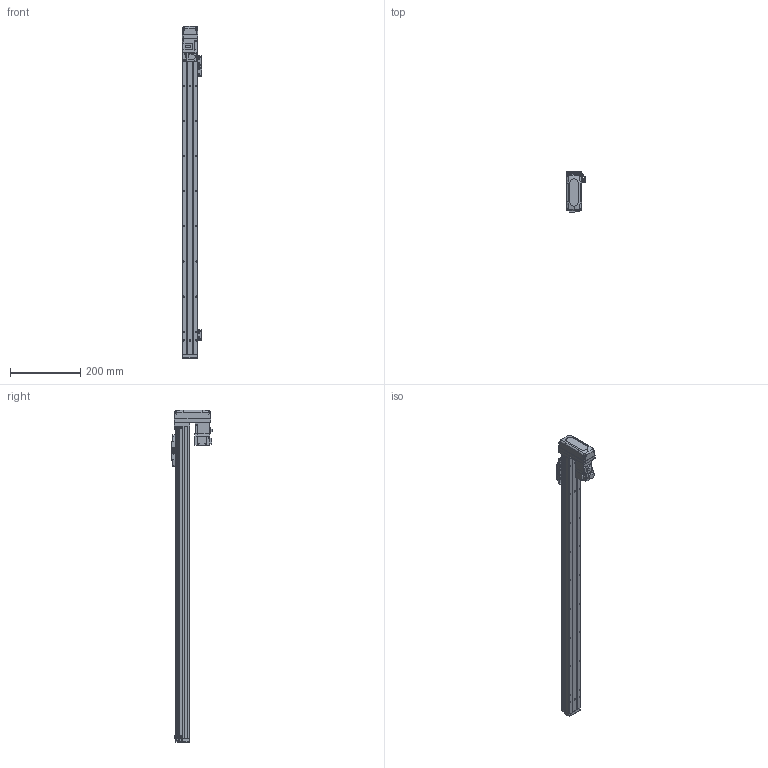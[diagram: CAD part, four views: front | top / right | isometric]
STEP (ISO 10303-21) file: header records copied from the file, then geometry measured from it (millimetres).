
FILE_DESCRIPTION (( 'STEP AP203' ), '1' );
FILE_NAME ('GTH4-750-BM-M05-C4.step', '2023-08-28T00:43:33', ( '微软用户' ), ( '微软中国' ), 'SwSTEP 2.0', 'SolidWorks 2020', '' );
FILE_SCHEMA (( 'CONFIG_CONTROL_DESIGN' ));
Length unit declared in the file: millimetre
Products named in the file (19): BTH50-023; BTH40-013; BTH40-001-50_BTH40-001-750; BTH50-024; HG-KR13; BTH40-003; GBT 70.1-M3℅6; GBT 70.3-M3℅6; BTH40-006; GBT96.1-2002 3×0.8; BTH40-027-1; BTH-M3X5X6; BTH40-022; BTH50-026; GBT70.1-2000 M3×16; GBT 70.1-M2.5×6; GTH4-750-BM-M05-C4; BTH50-028; BTH40-004
Assembly tree (47 placements, depth 2):
  GTH4-750-BM-M05-C4
    BTH40-001-50_BTH40-001-750
    BTH40-003
    BTH40-006
    BTH-M3X5X6  x8
    GBT70.1-2000 M3×16  x4
    BTH50-028  x2
    BTH50-023  x3
    BTH50-024  x3
    GBT 70.1-M3℅6  x6
    GBT96.1-2002 3×0.8  x6
    BTH40-022
    GBT 70.1-M2.5×6  x2
    BTH40-004
    BTH40-013
    HG-KR13
    GBT 70.3-M3℅6  x4
    BTH40-027-1
    BTH50-026
Bounding box: 55.2 x 115.8 x 946 mm (x, y, z)
Volume: 1646381.1 mm3; surface area: 277067 mm2
Topology: 49 solids, 49 shells, 1995 faces, 4695 edges, 2890 vertices
Faces by surface type: plane 1052, cylinder 507, cone 270, torus 128, bspline 34, sphere 4
Entity records: 40135 total; most frequent: CARTESIAN_POINT 7666, DIRECTION 6308, ORIENTED_EDGE 6036, EDGE_CURVE 3018, AXIS2_PLACEMENT_3D 2167, VECTOR 1974, LINE 1974, VERTEX_POINT 1877
